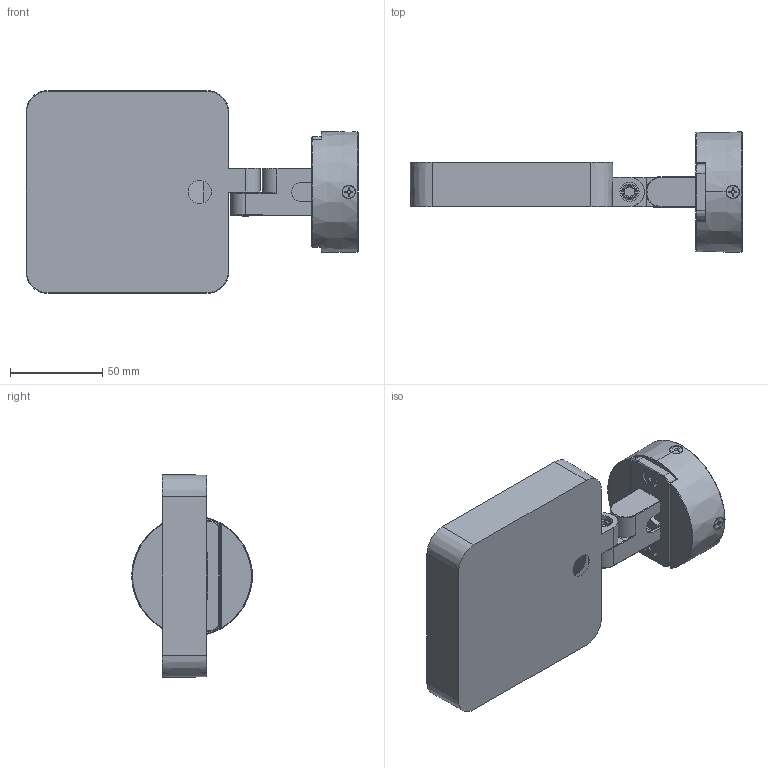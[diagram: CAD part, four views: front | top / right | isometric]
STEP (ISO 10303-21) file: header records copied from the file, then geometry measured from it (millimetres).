
FILE_DESCRIPTION((''),'2;1');
FILE_NAME('TAG110-PALO60_SW0002','2025-07-28T14:57:45',('Piccioli'),(''),'CREO PARAMETRIC BY PTC INC, 2025010','CREO PARAMETRIC BY PTC INC, 2025010','');
FILE_SCHEMA(('CONFIG_CONTROL_DESIGN'));
Length unit declared in the file: millimetre
Products named in the file (1): TAG110-PALO60_SW0002
Bounding box: 180 x 65.43 x 110 mm (x, y, z)
Surface area: 81832.3 mm2 (no closed solid volume)
Topology: 0 solids, 27 shells, 524 faces, 1580 edges, 1064 vertices
Faces by surface type: plane 190, cylinder 121, cone 90, torus 58, bspline 47, sphere 18
Entity records: 23182 total; most frequent: CARTESIAN_POINT 9411, DIRECTION 2925, ORIENTED_EDGE 2615, EDGE_CURVE 1580, AXIS2_PLACEMENT_3D 1096, VERTEX_POINT 1064, VECTOR 733, LINE 733
